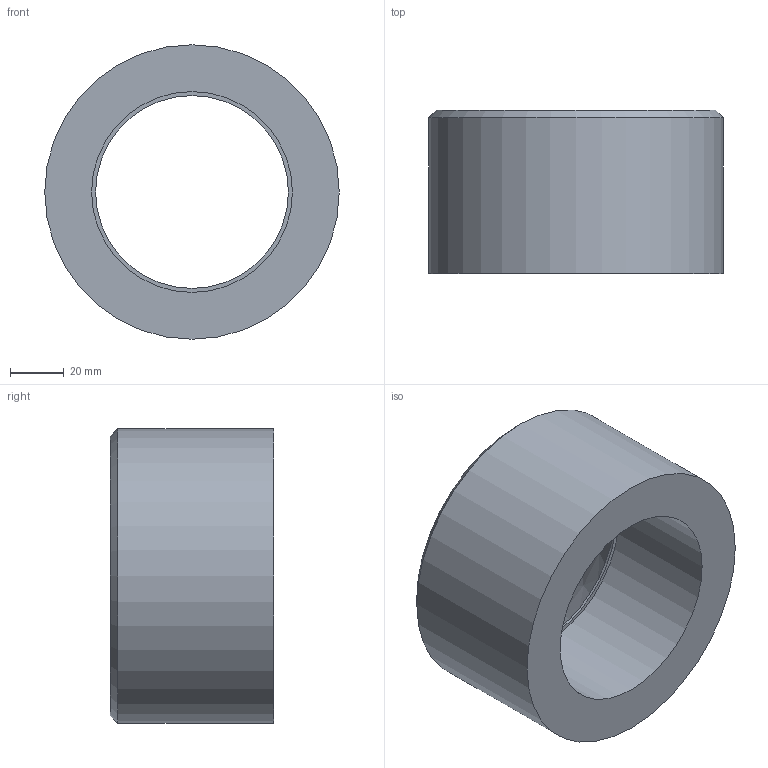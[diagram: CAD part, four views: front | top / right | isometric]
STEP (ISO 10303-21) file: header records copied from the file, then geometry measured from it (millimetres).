
FILE_DESCRIPTION(/* description */ ('PVC riduzione corta incollaggio metrica'),/* implementation_level */ '2;1');
FILE_NAME(/* name */ 'C:\Users\POLYPIPE\Desktop\DATASET INVENTOR\LIBRERIA EFFAST\RACCORDI 3DxWEB\RDR\3D_RDRRCD\3D_RDRRCD110H.stp',/* time_stamp */ '2018-01-19T15:33:05+01:00',/* author */ ('POLYPIPE'),/* organization */ ('Polypipe Italia s.r.l.'),/* preprocessor_version */ 'ST-DEVELOPER v16.1',/* originating_system */ 'Autodesk Inventor 2016',/* authorisation */ '');
FILE_SCHEMA (('CONFIG_CONTROL_DESIGN'));
Length unit declared in the file: millimetre
Products named in the file (1): 3D_RDRRCD
Bounding box: 110 x 61 x 110 mm (x, y, z)
Volume: 294507.5 mm3; surface area: 44232 mm2
Topology: 1 solids, 1 shells, 8 faces, 13 edges, 8 vertices
Faces by surface type: plane 3, cylinder 3, cone 2
Full cylindrical faces by diameter (mm): 72 x1, 75 x1, 110 x1
Entity records: 192 total; most frequent: DIRECTION 34, CARTESIAN_POINT 25, AXIS2_PLACEMENT_3D 17, EDGE_LOOP 16, ORIENTED_EDGE 16, FACE_BOUND 8, FACE_OUTER_BOUND 8, CIRCLE 8
